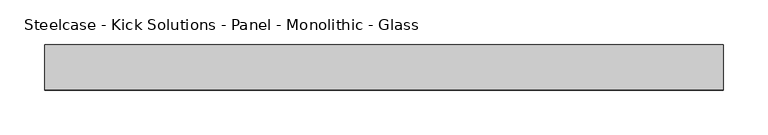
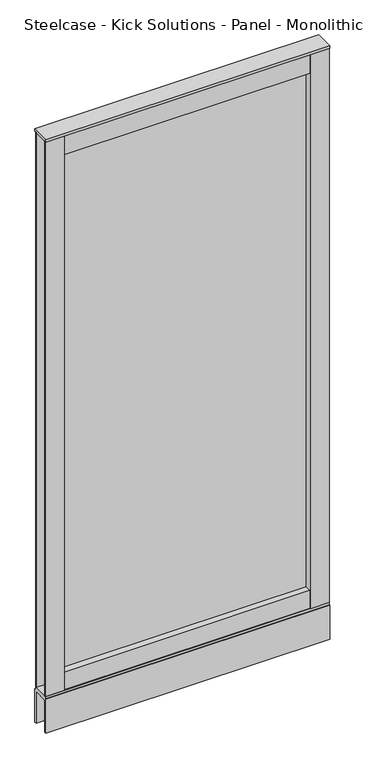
"""IFC4 building model written with IfcOpenShell, lengths in millimetres: furniture geometry, Steelcase - Kick Solutions - Panel - Monolithic - Glass : 66H x 30W."""

from ifc_helpers import new_model, si_unit, frame, origin, place, context, project, spatial, polyline, outline, extrude, source, transform, mapped, element, save


def steelcase_kick_solutions_panel_monolithic_glass_2c1aa817(model_context):
    return source(origin(), model_context, "Body", "SweptSolid", [
        extrude(outline(polyline([(711.2006661, -5.08), (711.2006661, -45.7200015), (50.8006646, -45.7200015), (50.8006646, -5.08), (711.2006661, -5.08)])), frame((0.0, 0.0, 101.7169049), z_axis=(0.0, 0.0, 1.0), x_axis=(1.0, 0.0, 0.0)), (0.0, 0.0, 1.0), 50.6830951),
        extrude(outline(polyline([(711.2006661, -5.08), (711.2006661, -45.7200015), (50.8006646, -45.7200015), (50.8006646, -5.08), (711.2006661, -5.08)])), frame((0.0, 0.0, 1619.25), z_axis=(0.0, 0.0, 1.0), x_axis=(1.0, 0.0, 0.0)), (0.0, 0.0, 1.0), 57.15),
        extrude(outline(polyline([(50.8006646, -3.1743148), (50.8006646, -47.6243142), (0.0, -47.6243142), (0.0, -45.7200015), (47.7526646, -45.7200015), (47.7526646, -5.08), (0.0, -5.08), (0.0, -3.1743148), (50.8006646, -3.1743148)])), frame((0.0, 0.0, 101.7169049), z_axis=(0.0, 0.0, 1.0), x_axis=(1.0, 0.0, 0.0)), (0.0, 0.0, 1.0), 1574.6830951),
        extrude(outline(polyline([(711.2006661, -3.1743148), (762.0, -3.1743148), (762.0, -5.08), (714.2486661, -5.08), (714.2486661, -45.7200015), (762.0, -45.7200015), (762.0, -47.6243142), (711.2006661, -47.6243142), (711.2006661, -3.1743148)])), frame((0.0, 0.0, 101.7169049), z_axis=(0.0, 0.0, 1.0), x_axis=(1.0, 0.0, 0.0)), (0.0, 0.0, 1.0), 1574.6830951),
        extrude(outline(polyline([(711.2006661, -28.422537), (50.8006646, -28.422537), (50.8006646, -25.4), (711.2006661, -25.4), (711.2006661, -28.422537)])), frame((0.0, 0.0, 152.4), z_axis=(0.0, 0.0, 1.0), x_axis=(1.0, 0.0, 0.0)), (0.0, 0.0, 1.0), 1466.85),
        extrude(outline(polyline([(762.0, 0.0), (762.0, -50.8000015), (0.0, -50.8000015), (0.0, 0.0), (762.0, 0.0)])), frame((0.0, 0.0, 1676.4), z_axis=(0.0, 0.0, 1.0), x_axis=(1.0, 0.0, 0.0)), (0.0, 0.0, 1.0), 6.35),
        extrude(outline(polyline([(0.0, 0.0), (-5.08, 0.0), (-5.08, 90.2869018), (-45.7200015, 90.2869018), (-45.7200015, 0.0), (-50.8000015, 0.0), (-50.8000015, 95.3669018), (-47.6243142, 95.3669018), (-47.6243142, 101.7169049), (-3.1743148, 101.7169049), (-3.1743148, 95.3669018), (0.0, 95.3669018), (0.0, 0.0)])), frame((0.0, 0.0, 0.0), z_axis=(1.0, 0.0, 0.0), x_axis=(0.0, 1.0, 0.0)), (0.0, 0.0, 1.0), 762.0),
    ])


if __name__ == "__main__":
    model = new_model("IFC4")
    model_context = context("Model", 3, world=origin())
    ifc_project = project(units=[si_unit("LENGTHUNIT", "METRE", prefix="MILLI")], contexts=[model_context])
    site = spatial("IfcSite", under=ifc_project)
    building = spatial("IfcBuilding", under=site)
    placement = place(None, origin())
    steelcase_kick_solutions_panel_monolithic_glass_shape = steelcase_kick_solutions_panel_monolithic_glass_2c1aa817(model_context)
    element("IfcFurniture", 1, ObjectType="Steelcase - Kick Solutions - Panel - Monolithic - Glass : 66H x 30W", at=placement, inside=building, context=model_context, shape_type="MappedRepresentation", body=[
        mapped(steelcase_kick_solutions_panel_monolithic_glass_shape, transform((0.0, 0.0, 0.0), x_axis=(1.0, 0.0, 0.0), y_axis=(0.0, 1.0, 0.0), z_axis=(0.0, 0.0, 1.0))),
    ])
    save(model, "model.ifc")
